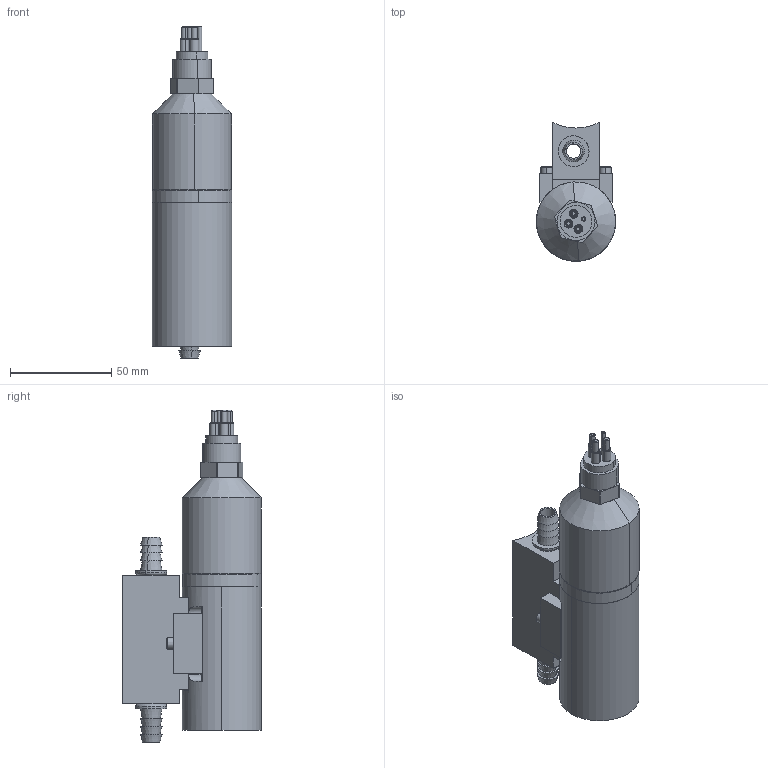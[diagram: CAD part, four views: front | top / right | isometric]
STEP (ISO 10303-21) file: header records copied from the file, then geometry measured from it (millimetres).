
FILE_DESCRIPTION (( 'STEP AP203' ), '1' );
FILE_NAME ('43F MCBH.STEP', '2026-07-30T21:30:18', ( '' ), ( '' ), 'SwSTEP 2.0', 'SolidWorks 2025', '' );
FILE_SCHEMA (( 'CONFIG_CONTROL_DESIGN' ));
Length unit declared in the file: inch
Products named in the file (1): 43F MCBH
Bounding box: 39.12 x 68.5 x 163.96 mm (x, y, z)
Surface area: 32907.7 mm2 (no closed solid volume)
Topology: 0 solids, 13 shells, 194 faces, 523 edges, 350 vertices
Faces by surface type: plane 81, cylinder 63, cone 36, torus 14
Entity records: 6521 total; most frequent: CARTESIAN_POINT 1430, DIRECTION 1136, ORIENTED_EDGE 914, EDGE_CURVE 519, AXIS2_PLACEMENT_3D 440, VERTEX_POINT 350, LINE 256, VECTOR 256
